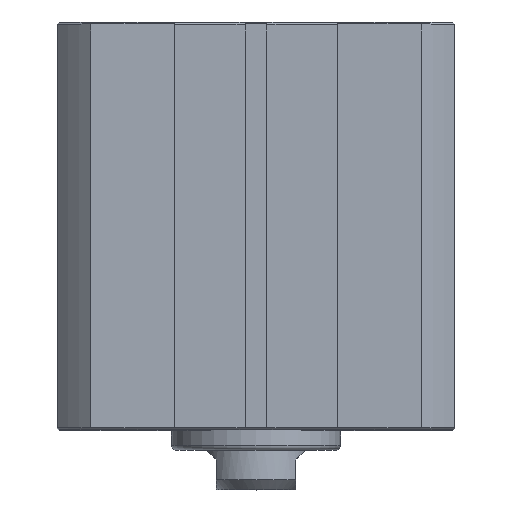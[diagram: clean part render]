
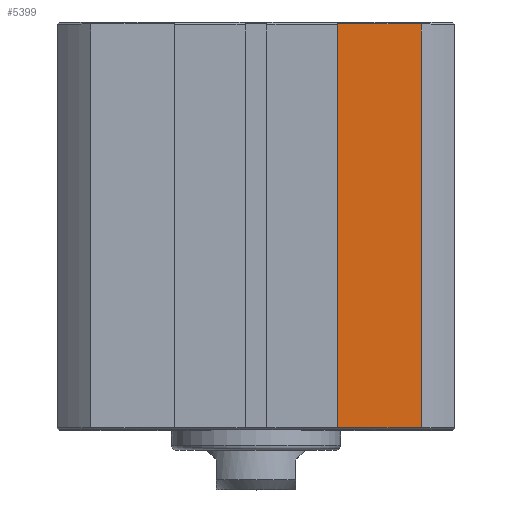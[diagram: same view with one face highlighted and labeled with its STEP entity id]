
A CAD part, top view. The second image highlights one B-rep face of the part: STEP entity #5399.
In plain terms, the highlighted planar face has unit normal (0, 0, 1).
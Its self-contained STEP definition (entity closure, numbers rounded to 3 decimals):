
#128=LINE('',#7426,#478);
#131=LINE('',#7432,#481);
#132=LINE('',#7435,#482);
#133=LINE('',#7436,#483);
#478=VECTOR('',#6301,1000.);
#481=VECTOR('',#6306,1000.);
#482=VECTOR('',#6307,1000.);
#483=VECTOR('',#6308,1000.);
#1030=ORIENTED_EDGE('',*,*,#1983,.F.);
#1031=ORIENTED_EDGE('',*,*,#1984,.T.);
#1032=ORIENTED_EDGE('',*,*,#1980,.T.);
#1033=ORIENTED_EDGE('',*,*,#1985,.T.);
#1980=EDGE_CURVE('',#2471,#2472,#128,.T.);
#1983=EDGE_CURVE('',#2473,#2474,#131,.T.);
#1984=EDGE_CURVE('',#2473,#2471,#132,.T.);
#1985=EDGE_CURVE('',#2472,#2474,#133,.T.);
#2471=VERTEX_POINT('',#7427);
#2472=VERTEX_POINT('',#7428);
#2473=VERTEX_POINT('',#7433);
#2474=VERTEX_POINT('',#7434);
#2880=EDGE_LOOP('',(#1030,#1031,#1032,#1033));
#3200=FACE_BOUND('',#2880,.T.);
#3449=PLANE('',#5716);
#5399=ADVANCED_FACE('',(#3200),#3449,.F.);
#5716=AXIS2_PLACEMENT_3D('',#7431,#6304,#6305);
#6301=DIRECTION('',(0.,-1.,0.));
#6304=DIRECTION('',(0.,0.,-1.));
#6305=DIRECTION('',(-1.,0.,0.));
#6306=DIRECTION('',(0.,-1.,0.));
#6307=DIRECTION('',(-1.,0.,0.));
#6308=DIRECTION('',(1.,0.,0.));
#7426=CARTESIAN_POINT('',(8.2,31.,20.));
#7427=CARTESIAN_POINT('',(8.2,40.8,20.));
#7428=CARTESIAN_POINT('',(8.2,0.2,20.));
#7431=CARTESIAN_POINT('',(8.2,31.,20.));
#7432=CARTESIAN_POINT('',(16.613,31.,20.));
#7433=CARTESIAN_POINT('',(16.613,40.8,20.));
#7434=CARTESIAN_POINT('',(16.613,0.2,20.));
#7435=CARTESIAN_POINT('',(0.,40.8,20.));
#7436=CARTESIAN_POINT('',(8.2,0.2,20.));
